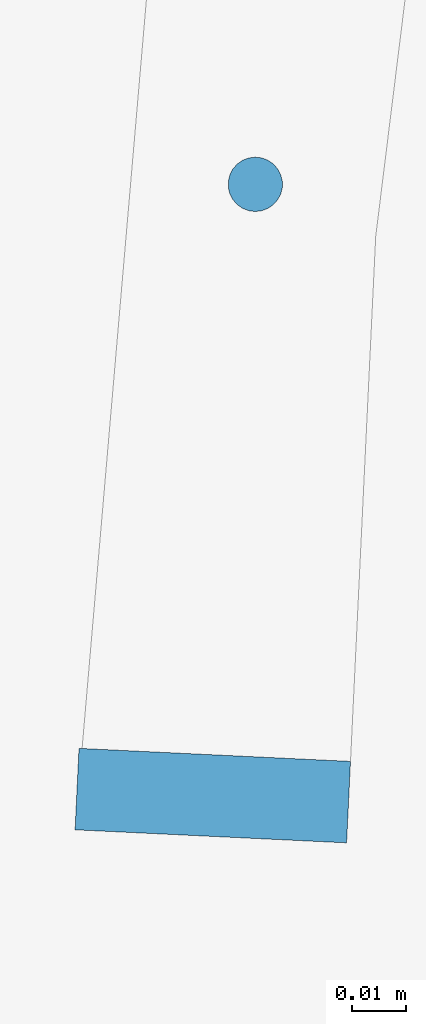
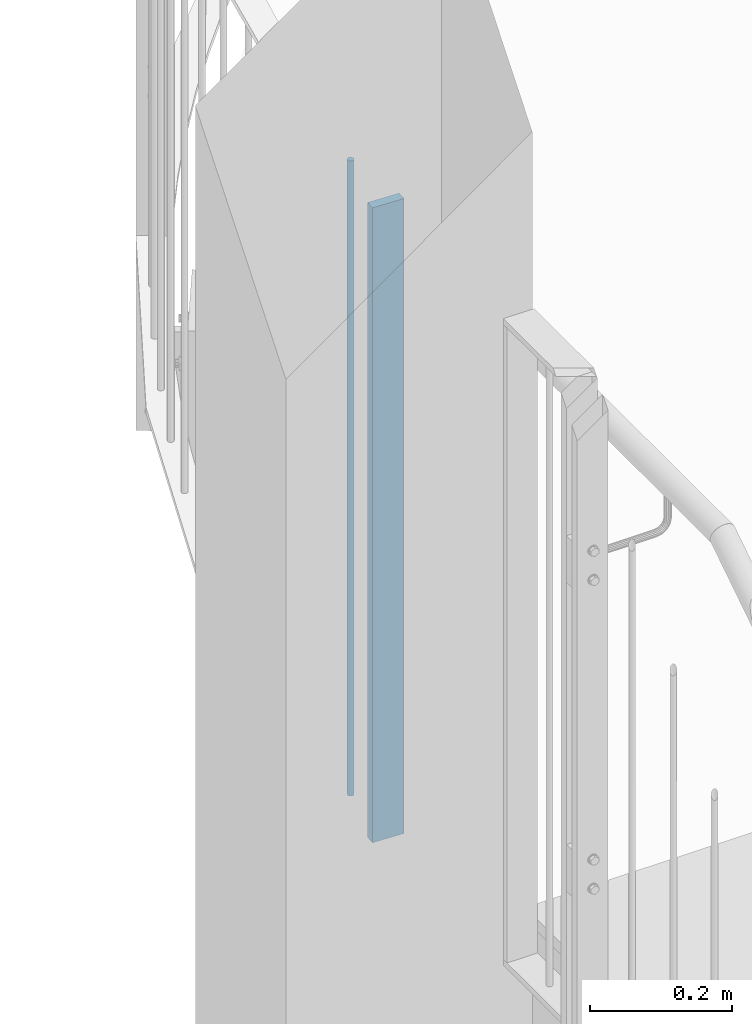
# One storey, part 49 of 296: 2 columns.
"""IFC2X3 building model written with IfcOpenShell, lengths in millimetres."""

from ifc_helpers import new_model, entity, si_unit, converted_unit, frame, origin, origin_with_axes, origin_2d, place, context, project, spatial, rectangle, circle, extrude, material, element, save


model = new_model("IFC2X3")

# Units and contexts
model_context = context("Model", 3, precision=1e-09, world=origin_with_axes())
ifc_project = project(units=[si_unit("LENGTHUNIT", "METRE", prefix="MILLI"), si_unit("AREAUNIT", "SQUARE_METRE"), si_unit("VOLUMEUNIT", "CUBIC_METRE"), converted_unit("PLANEANGLEUNIT", "DEGREE", entity("IfcPlaneAngleMeasure", 0.01745329), si_unit("PLANEANGLEUNIT", "RADIAN"), dimensions=[0, 0, 0, 0, 0, 0, 0])], contexts=[model_context])

# Site, building, storey
site_placement = place(None, origin_with_axes())
site = spatial("IfcSite", under=ifc_project, at=site_placement, Name="TZD-S?d | Treppenhausgel?nder", CompositionType="ELEMENT")
building_placement = place(site_placement, origin_with_axes())
building = spatial("IfcBuilding", under=site, at=building_placement, Name="Struktur 1", CompositionType="ELEMENT")
storey_placement = place(building_placement, origin_with_axes())
storey = spatial("IfcBuildingStorey", under=building, at=storey_placement, Name="Default Storey", CompositionType="ELEMENT", Elevation=0.0)

# Columns
ifc_material = material(Name="S235JR")
column_1_placement = place(None, frame((-53.37643005, 163.389143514, 7350.0), z_axis=(0.0, 0.0, 1.0), x_axis=(0.0, 1.0, 0.0)))
element("IfcColumn", 1, at=column_1_placement, inside=storey, material=ifc_material, Name="-", ObjectType="-", context=model_context, shape_type="SweptSolid", body=[
    extrude(circle(Radius=5.0, at=origin_2d()), origin(), (0.0, 0.0, 1.0), 1090.0),
])
column_2_placement = place(None, frame((-61.196839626, 50.945967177, 8440.0), z_axis=(0.0, 0.0, -1.0), x_axis=(-0.047978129, -0.998848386, 0.0)))
element("IfcColumn", 2, at=column_2_placement, inside=storey, material=ifc_material, Name="-", ObjectType="-", context=model_context, shape_type="SweptSolid", body=[
    extrude(rectangle(XDim=15.0, YDim=50.0, at=origin_2d()), origin(), (0.0, 0.0, 1.0), 1090.0),
])

save(model, "model.ifc")
